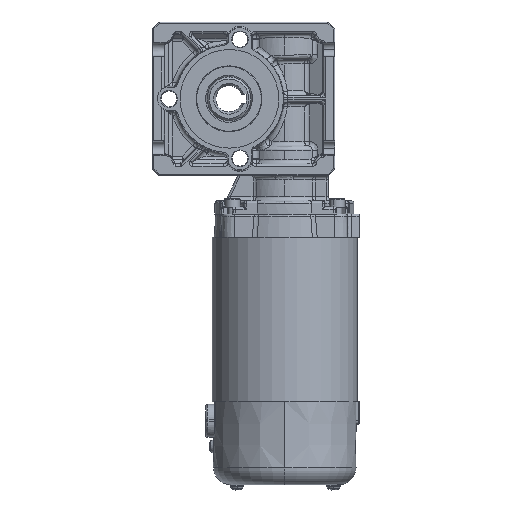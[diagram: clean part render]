
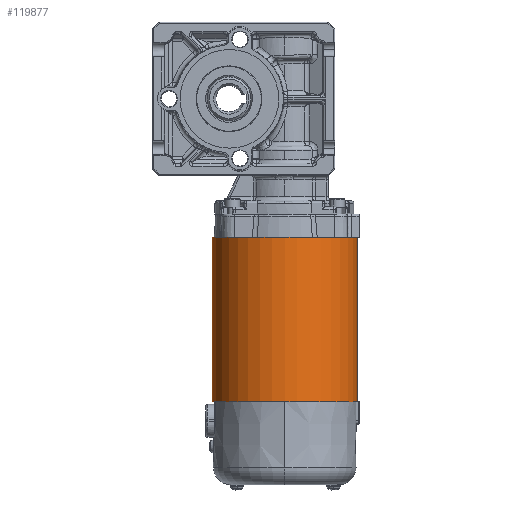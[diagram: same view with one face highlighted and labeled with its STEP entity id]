
A CAD part, left-side view. The second image highlights one B-rep face of the part: STEP entity #119877.
In plain terms, the highlighted cylindrical face has radius 33.096 mm (diameter 66.192 mm), a partial arc.
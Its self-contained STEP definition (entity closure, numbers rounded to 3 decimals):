
#117 = ORIENTED_EDGE ( 'NONE', *, *, #3603, .T. ) ;
#3060 = CARTESIAN_POINT ( 'NONE',  ( 39.831, 124.701, 94.315 ) ) ;
#3603 = EDGE_CURVE ( 'NONE', #31940, #40261, #119023, .T. ) ;
#9471 = CARTESIAN_POINT ( 'NONE',  ( 39.831, 124.701, 169.245 ) ) ;
#15127 = VECTOR ( 'NONE', #131381, 1000. ) ;
#17017 = CARTESIAN_POINT ( 'NONE',  ( 39.831, 124.701, 169.245 ) ) ;
#20688 = ORIENTED_EDGE ( 'NONE', *, *, #55532, .T. ) ;
#30697 = CARTESIAN_POINT ( 'NONE',  ( 39.831, 91.605, 169.245 ) ) ;
#31940 = VERTEX_POINT ( 'NONE', #71526 ) ;
#40261 = VERTEX_POINT ( 'NONE', #17017 ) ;
#51695 = CARTESIAN_POINT ( 'NONE',  ( 39.831, 58.509, 169.245 ) ) ;
#52453 = CARTESIAN_POINT ( 'NONE',  ( 39.831, 58.509, 94.315 ) ) ;
#55532 = EDGE_CURVE ( 'NONE', #40261, #76699, #67789, .T. ) ;
#57545 = AXIS2_PLACEMENT_3D ( 'NONE', #109766, #133562, #146597 ) ;
#58462 = ORIENTED_EDGE ( 'NONE', *, *, #59527, .F. ) ;
#59527 = EDGE_CURVE ( 'NONE', #31940, #60288, #83029, .T. ) ;
#60288 = VERTEX_POINT ( 'NONE', #52453 ) ;
#63224 = DIRECTION ( 'NONE',  ( 0., 1., 0. ) ) ;
#67314 = DIRECTION ( 'NONE',  ( 0., 0., -1. ) ) ;
#67789 = LINE ( 'NONE', #9471, #83807 ) ;
#71526 = CARTESIAN_POINT ( 'NONE',  ( 39.831, 58.509, 169.245 ) ) ;
#75742 = FACE_OUTER_BOUND ( 'NONE', #130749, .T. ) ;
#76699 = VERTEX_POINT ( 'NONE', #3060 ) ;
#77035 = CIRCLE ( 'NONE', #57545, 33.096 ) ;
#78782 = ORIENTED_EDGE ( 'NONE', *, *, #90990, .T. ) ;
#83029 = LINE ( 'NONE', #51695, #15127 ) ;
#83807 = VECTOR ( 'NONE', #115289, 1000. ) ;
#90282 = DIRECTION ( 'NONE',  ( 0., 1., 0. ) ) ;
#90990 = EDGE_CURVE ( 'NONE', #76699, #60288, #77035, .T. ) ;
#91817 = AXIS2_PLACEMENT_3D ( 'NONE', #30697, #67314, #90282 ) ;
#109766 = CARTESIAN_POINT ( 'NONE',  ( 39.831, 91.605, 94.315 ) ) ;
#109951 = CARTESIAN_POINT ( 'NONE',  ( 39.831, 91.605, 169.245 ) ) ;
#110299 = CYLINDRICAL_SURFACE ( 'NONE', #91817, 33.096 ) ;
#115289 = DIRECTION ( 'NONE',  ( 0., 0., -1. ) ) ;
#119023 = CIRCLE ( 'NONE', #126362, 33.096 ) ;
#119877 = ADVANCED_FACE ( 'NONE', ( #75742 ), #110299, .T. ) ;
#126362 = AXIS2_PLACEMENT_3D ( 'NONE', #109951, #132990, #63224 ) ;
#130749 = EDGE_LOOP ( 'NONE', ( #58462, #117, #20688, #78782 ) ) ;
#131381 = DIRECTION ( 'NONE',  ( 0., 0., -1. ) ) ;
#132990 = DIRECTION ( 'NONE',  ( 0., 0., -1. ) ) ;
#133562 = DIRECTION ( 'NONE',  ( 0., 0., 1. ) ) ;
#146597 = DIRECTION ( 'NONE',  ( 0., 1., 0. ) ) ;
